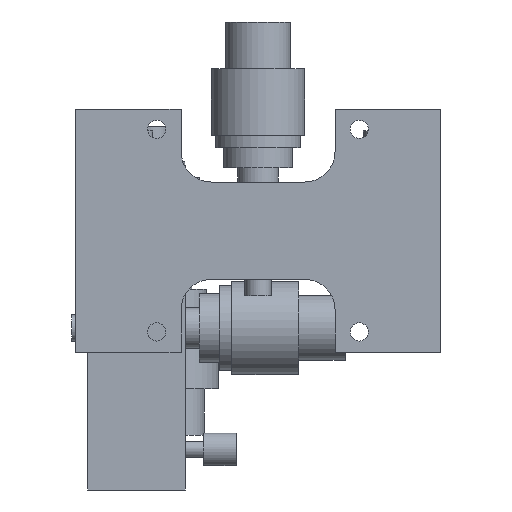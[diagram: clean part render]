
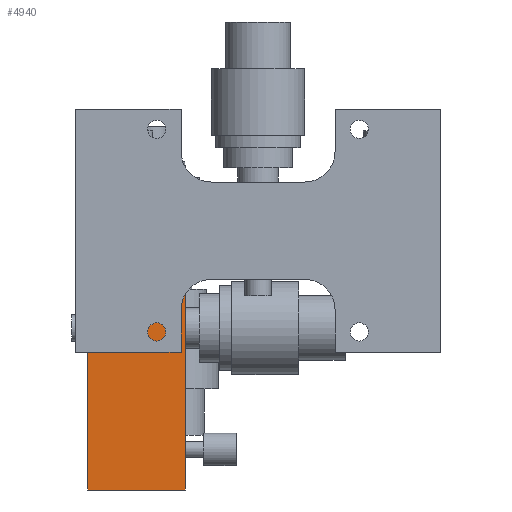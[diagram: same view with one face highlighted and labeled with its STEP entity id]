
A CAD part, front view. The second image highlights one B-rep face of the part: STEP entity #4940.
In plain terms, the highlighted planar face has unit normal (0, -1, 0).
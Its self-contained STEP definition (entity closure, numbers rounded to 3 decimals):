
#2035 = DIRECTION ( 'NONE',  ( 0., 0., -1. ) ) ;
#2036 = VECTOR ( 'NONE', #2035, 1000. ) ;
#2037 = CARTESIAN_POINT ( 'NONE',  ( -18., 33.5, 16. ) ) ;
#2038 = LINE ( 'NONE', #2037, #2036 ) ;
#2039 = CARTESIAN_POINT ( 'NONE',  ( -18., 33.5, -12. ) ) ;
#2057 = DIRECTION ( 'NONE',  ( 1., 0., 0. ) ) ;
#2058 = VECTOR ( 'NONE', #2057, 1000. ) ;
#2059 = CARTESIAN_POINT ( 'NONE',  ( -45., 33.5, -12. ) ) ;
#2060 = LINE ( 'NONE', #2059, #2058 ) ;
#2061 = DIRECTION ( 'NONE',  ( -1., 0., 0. ) ) ;
#2062 = DIRECTION ( 'NONE',  ( 0., 1., 0. ) ) ;
#2063 = CARTESIAN_POINT ( 'NONE',  ( -42., 33.5, 16. ) ) ;
#2064 = AXIS2_PLACEMENT_3D ( 'NONE', #2063, #2062, #2061 ) ;
#2065 = PLANE ( 'NONE',  #2064 ) ;
#2066 = FACE_OUTER_BOUND ( 'NONE', #4941, .T. ) ;
#2125 = CARTESIAN_POINT ( 'NONE',  ( -18., 33.5, -64. ) ) ;
#2218 = DIRECTION ( 'NONE',  ( 1., 0., 0. ) ) ;
#2219 = VECTOR ( 'NONE', #2218, 1000. ) ;
#2220 = CARTESIAN_POINT ( 'NONE',  ( -42., 33.5, -64. ) ) ;
#2226 = LINE ( 'NONE', #2220, #2219 ) ;
#2400 = CARTESIAN_POINT ( 'NONE',  ( -42., 33.5, -12. ) ) ;
#2401 = DIRECTION ( 'NONE',  ( 0., 0., -1. ) ) ;
#2402 = VECTOR ( 'NONE', #2401, 1000. ) ;
#2403 = CARTESIAN_POINT ( 'NONE',  ( -42., 33.5, 16. ) ) ;
#2404 = LINE ( 'NONE', #2403, #2402 ) ;
#2405 = CARTESIAN_POINT ( 'NONE',  ( -42., 33.5, -64. ) ) ;
#4849 = VERTEX_POINT ( 'NONE', #2125 ) ;
#4895 = VERTEX_POINT ( 'NONE', #2039 ) ;
#4897 = EDGE_CURVE ( 'NONE', #4895, #4849, #2038, .T. ) ;
#4940 = ADVANCED_FACE ( 'NONE', ( #2066 ), #2065, .F. ) ;
#4941 = EDGE_LOOP ( 'NONE', ( #4942, #4944, #4945, #4946 ) ) ;
#4942 = ORIENTED_EDGE ( 'NONE', *, *, #4943, .F. ) ;
#4943 = EDGE_CURVE ( 'NONE', #4992, #4895, #2060, .T. ) ;
#4944 = ORIENTED_EDGE ( 'NONE', *, *, #4991, .T. ) ;
#4945 = ORIENTED_EDGE ( 'NONE', *, *, #4960, .T. ) ;
#4946 = ORIENTED_EDGE ( 'NONE', *, *, #4897, .F. ) ;
#4960 = EDGE_CURVE ( 'NONE', #4989, #4849, #2226, .T. ) ;
#4989 = VERTEX_POINT ( 'NONE', #2405 ) ;
#4991 = EDGE_CURVE ( 'NONE', #4992, #4989, #2404, .T. ) ;
#4992 = VERTEX_POINT ( 'NONE', #2400 ) ;
